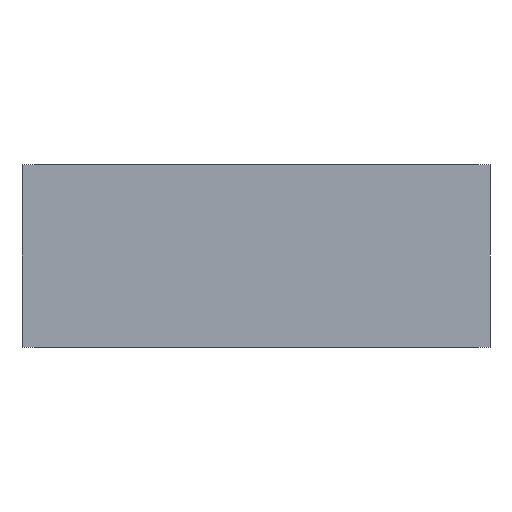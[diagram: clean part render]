
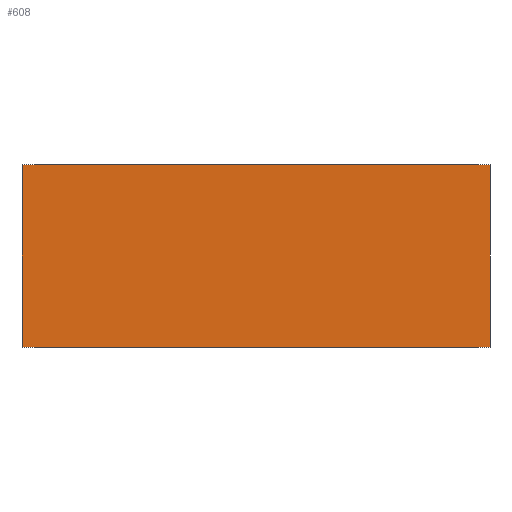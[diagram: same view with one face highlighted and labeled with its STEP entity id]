
A CAD part, front view. The second image highlights one B-rep face of the part: STEP entity #608.
In plain terms, the highlighted planar face has unit normal (0, -1, 0).
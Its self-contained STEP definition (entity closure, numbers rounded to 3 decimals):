
#50 = VERTEX_POINT ( 'NONE', #80 ) ;
#51 = VERTEX_POINT ( 'NONE', #86 ) ;
#60 = VERTEX_POINT ( 'NONE', #95 ) ;
#68 = VERTEX_POINT ( 'NONE', #103 ) ;
#80 = CARTESIAN_POINT ( 'NONE',  ( -154., 0., 0. ) ) ;
#86 = CARTESIAN_POINT ( 'NONE',  ( 154., 0., 120. ) ) ;
#95 = CARTESIAN_POINT ( 'NONE',  ( -154., 0., 120. ) ) ;
#103 = CARTESIAN_POINT ( 'NONE',  ( 154., 0., 0. ) ) ;
#145 = EDGE_CURVE ( 'NONE', #60, #51, #360, .T. ) ;
#159 = AXIS2_PLACEMENT_3D ( 'NONE', #565, #571, #572 ) ;
#163 = EDGE_CURVE ( 'NONE', #60, #50, #391, .T. ) ;
#167 = EDGE_CURVE ( 'NONE', #51, #68, #378, .T. ) ;
#182 = EDGE_CURVE ( 'NONE', #50, #68, #204, .T. ) ;
#204 = LINE ( 'NONE', #503, #407 ) ;
#240 = ORIENTED_EDGE ( 'NONE', *, *, #182, .T. ) ;
#243 = ORIENTED_EDGE ( 'NONE', *, *, #163, .T. ) ;
#244 = ORIENTED_EDGE ( 'NONE', *, *, #145, .F. ) ;
#245 = ORIENTED_EDGE ( 'NONE', *, *, #167, .F. ) ;
#251 = VECTOR ( 'NONE', #456, 1000. ) ;
#287 = EDGE_LOOP ( 'NONE', ( #240, #245, #244, #243 ) ) ;
#360 = LINE ( 'NONE', #455, #251 ) ;
#378 = LINE ( 'NONE', #479, #397 ) ;
#391 = LINE ( 'NONE', #477, #392 ) ;
#392 = VECTOR ( 'NONE', #478, 1000. ) ;
#397 = VECTOR ( 'NONE', #485, 1000. ) ;
#407 = VECTOR ( 'NONE', #504, 1000. ) ;
#427 = FACE_OUTER_BOUND ( 'NONE', #287, .T. ) ;
#455 = CARTESIAN_POINT ( 'NONE',  ( -154., 0., 120. ) ) ;
#456 = DIRECTION ( 'NONE',  ( 1., 0., 0. ) ) ;
#477 = CARTESIAN_POINT ( 'NONE',  ( -154., 0., 120. ) ) ;
#478 = DIRECTION ( 'NONE',  ( 0., 0., -1. ) ) ;
#479 = CARTESIAN_POINT ( 'NONE',  ( 154., 0., 120. ) ) ;
#485 = DIRECTION ( 'NONE',  ( 0., 0., -1. ) ) ;
#503 = CARTESIAN_POINT ( 'NONE',  ( -154., 0., 0. ) ) ;
#504 = DIRECTION ( 'NONE',  ( 1., 0., 0. ) ) ;
#561 = PLANE ( 'NONE',  #159 ) ;
#565 = CARTESIAN_POINT ( 'NONE',  ( -154., 0., 120. ) ) ;
#571 = DIRECTION ( 'NONE',  ( 0., 1., 0. ) ) ;
#572 = DIRECTION ( 'NONE',  ( -1., 0., 0. ) ) ;
#608 = ADVANCED_FACE ( 'NONE', ( #427 ), #561, .F. ) ;
